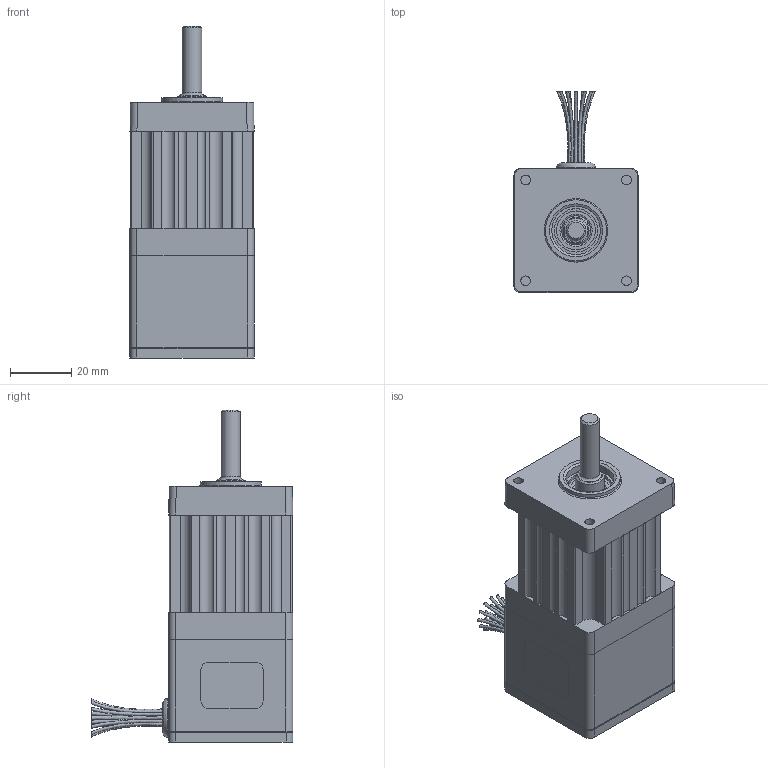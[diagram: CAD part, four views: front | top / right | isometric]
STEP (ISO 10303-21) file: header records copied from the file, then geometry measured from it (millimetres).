
FILE_DESCRIPTION((''),'2;1');
FILE_NAME('C:\CAD_work\Dummy_Modeling_Project_02-12-05\3D MODELS\SM160_FL.stp','2005-12-20T17:38:10',('jevans'),(''),'Autodesk Inventor 10','Autodesk Inventor 10','');
FILE_SCHEMA(('AUTOMOTIVE_DESIGN { 1 0 10303 214 1 1 1 1 }'));
Length unit declared in the file: inch
Products named in the file (1): SM16_FL
Bounding box: 40.67 x 66.04 x 108.71 mm (x, y, z)
Volume: 131018.5 mm3; surface area: 20995.5 mm2
Topology: 1 solids, 2 shells, 205 faces, 482 edges, 309 vertices
Faces by surface type: plane 112, cylinder 63, bspline 25, cone 3, torus 2
Full cylindrical faces by diameter (mm): 6.35 x2, 9.525 x1, 12.7 x2, 14.224 x1, 15.875 x1, 17.526 x1, 20.015 x1, 22.225 x1, 22.228 x1
Entity records: 8109 total; most frequent: CARTESIAN_POINT 3484, DIRECTION 946, ORIENTED_EDGE 900, EDGE_CURVE 450, AXIS2_PLACEMENT_3D 357, VERTEX_POINT 300, EDGE_LOOP 278, VECTOR 232
